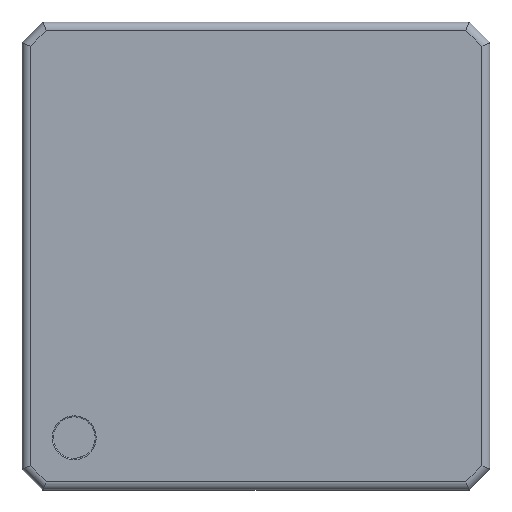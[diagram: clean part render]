
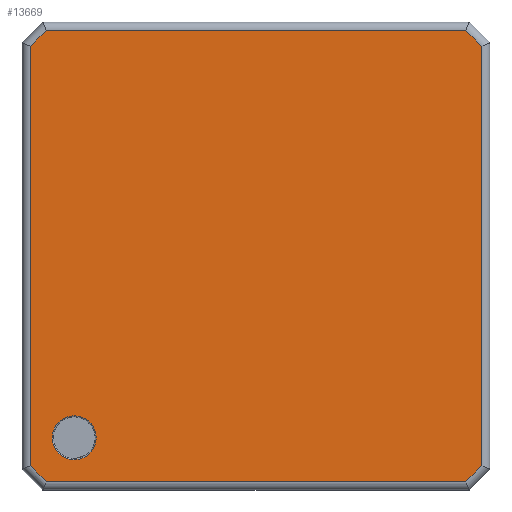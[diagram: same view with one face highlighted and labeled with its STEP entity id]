
A CAD part, top view. The second image highlights one B-rep face of the part: STEP entity #13669.
In plain terms, the highlighted planar face has unit normal (0, 0, 1).
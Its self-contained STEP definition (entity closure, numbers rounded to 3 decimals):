
#13367 = CARTESIAN_POINT ( 'NONE',  ( -11.049, -12.383, 2.54 ) ) ;
#13368 = VERTEX_POINT ( 'NONE', #13367 ) ;
#13376 = CARTESIAN_POINT ( 'NONE',  ( -11.049, -9.716, 2.54 ) ) ;
#13377 = VERTEX_POINT ( 'NONE', #13376 ) ;
#13378 = CARTESIAN_POINT ( 'NONE',  ( -11.049, -11.049, 2.54 ) ) ;
#13379 = DIRECTION ( 'NONE',  ( 0., 0., -1. ) ) ;
#13380 = DIRECTION ( 'NONE',  ( 0., 1., 0. ) ) ;
#13381 = AXIS2_PLACEMENT_3D ( 'NONE', #13378, #13379, #13380 ) ;
#13382 = CIRCLE ( 'NONE', #13381, 1.334) ;
#13383 = EDGE_CURVE ( 'NONE', #13377, #13368, #13382, .T. ) ;
#13588 = ORIENTED_EDGE ( 'NONE', *, *, #13383, .T. ) ;
#13589 = CARTESIAN_POINT ( 'NONE',  ( -11.049, -11.049, 2.54 ) ) ;
#13590 = DIRECTION ( 'NONE',  ( 0., 0., -1. ) ) ;
#13591 = DIRECTION ( 'NONE',  ( 0., 1., 0. ) ) ;
#13592 = AXIS2_PLACEMENT_3D ( 'NONE', #13589, #13590, #13591 ) ;
#13593 = CIRCLE ( 'NONE', #13592, 1.334) ;
#13594 = EDGE_CURVE ( 'NONE', #13368, #13377, #13593, .T. ) ;
#13595 = ORIENTED_EDGE ( 'NONE', *, *, #13594, .T. ) ;
#13596 = EDGE_LOOP ( 'NONE', ( #13588, #13595 ) ) ;
#13597 = FACE_BOUND ( 'NONE', #13596, .T. ) ;
#13598 = CARTESIAN_POINT ( 'NONE',  ( 13.716, -12.744, 2.54 ) ) ;
#13599 = VERTEX_POINT ( 'NONE', #13598 ) ;
#13600 = CARTESIAN_POINT ( 'NONE',  ( 13.716, 12.744, 2.54 ) ) ;
#13601 = VERTEX_POINT ( 'NONE', #13600 ) ;
#13602 = CARTESIAN_POINT ( 'NONE',  ( 13.716, 0., 2.54 ) ) ;
#13603 = DIRECTION ( 'NONE',  ( 0., 1., 0. ) ) ;
#13604 = VECTOR ( 'NONE', #13603, 1000. ) ;
#13605 = LINE ( 'NONE', #13602, #13604 ) ;
#13606 = EDGE_CURVE ( 'NONE', #13599, #13601, #13605, .T. ) ;
#13607 = ORIENTED_EDGE ( 'NONE', *, *, #13606, .T. ) ;
#13608 = CARTESIAN_POINT ( 'NONE',  ( 12.744, 13.716, 2.54 ) ) ;
#13609 = VERTEX_POINT ( 'NONE', #13608 ) ;
#13610 = CARTESIAN_POINT ( 'NONE',  ( 12.595, 13.865, 2.54 ) ) ;
#13611 = DIRECTION ( 'NONE',  ( -0.707, 0.707, 0. ) ) ;
#13612 = VECTOR ( 'NONE', #13611, 1000. ) ;
#13613 = LINE ( 'NONE', #13610, #13612 ) ;
#13614 = EDGE_CURVE ( 'NONE', #13601, #13609, #13613, .T. ) ;
#13615 = ORIENTED_EDGE ( 'NONE', *, *, #13614, .T. ) ;
#13616 = CARTESIAN_POINT ( 'NONE',  ( -12.744, 13.716, 2.54 ) ) ;
#13617 = VERTEX_POINT ( 'NONE', #13616 ) ;
#13618 = CARTESIAN_POINT ( 'NONE',  ( 0., 13.716, 2.54 ) ) ;
#13619 = DIRECTION ( 'NONE',  ( -1., 0., 0. ) ) ;
#13620 = VECTOR ( 'NONE', #13619, 1000. ) ;
#13621 = LINE ( 'NONE', #13618, #13620 ) ;
#13622 = EDGE_CURVE ( 'NONE', #13609, #13617, #13621, .T. ) ;
#13623 = ORIENTED_EDGE ( 'NONE', *, *, #13622, .T. ) ;
#13624 = CARTESIAN_POINT ( 'NONE',  ( -13.716, 12.744, 2.54 ) ) ;
#13625 = VERTEX_POINT ( 'NONE', #13624 ) ;
#13626 = CARTESIAN_POINT ( 'NONE',  ( -13.865, 12.595, 2.54 ) ) ;
#13627 = DIRECTION ( 'NONE',  ( -0.707, -0.707, 0. ) ) ;
#13628 = VECTOR ( 'NONE', #13627, 1000. ) ;
#13629 = LINE ( 'NONE', #13626, #13628 ) ;
#13630 = EDGE_CURVE ( 'NONE', #13617, #13625, #13629, .T. ) ;
#13631 = ORIENTED_EDGE ( 'NONE', *, *, #13630, .T. ) ;
#13632 = CARTESIAN_POINT ( 'NONE',  ( -13.716, -12.744, 2.54 ) ) ;
#13633 = VERTEX_POINT ( 'NONE', #13632 ) ;
#13634 = CARTESIAN_POINT ( 'NONE',  ( -13.716, 0., 2.54 ) ) ;
#13635 = DIRECTION ( 'NONE',  ( 0., -1., 0. ) ) ;
#13636 = VECTOR ( 'NONE', #13635, 1000. ) ;
#13637 = LINE ( 'NONE', #13634, #13636 ) ;
#13638 = EDGE_CURVE ( 'NONE', #13625, #13633, #13637, .T. ) ;
#13639 = ORIENTED_EDGE ( 'NONE', *, *, #13638, .T. ) ;
#13640 = CARTESIAN_POINT ( 'NONE',  ( -12.744, -13.716, 2.54 ) ) ;
#13641 = VERTEX_POINT ( 'NONE', #13640 ) ;
#13642 = CARTESIAN_POINT ( 'NONE',  ( -12.595, -13.865, 2.54 ) ) ;
#13643 = DIRECTION ( 'NONE',  ( 0.707, -0.707, 0. ) ) ;
#13644 = VECTOR ( 'NONE', #13643, 1000. ) ;
#13645 = LINE ( 'NONE', #13642, #13644 ) ;
#13646 = EDGE_CURVE ( 'NONE', #13633, #13641, #13645, .T. ) ;
#13647 = ORIENTED_EDGE ( 'NONE', *, *, #13646, .T. ) ;
#13648 = CARTESIAN_POINT ( 'NONE',  ( 12.744, -13.716, 2.54 ) ) ;
#13649 = VERTEX_POINT ( 'NONE', #13648 ) ;
#13650 = CARTESIAN_POINT ( 'NONE',  ( 0., -13.716, 2.54 ) ) ;
#13651 = DIRECTION ( 'NONE',  ( 1., 0., 0. ) ) ;
#13652 = VECTOR ( 'NONE', #13651, 1000. ) ;
#13653 = LINE ( 'NONE', #13650, #13652 ) ;
#13654 = EDGE_CURVE ( 'NONE', #13641, #13649, #13653, .T. ) ;
#13655 = ORIENTED_EDGE ( 'NONE', *, *, #13654, .T. ) ;
#13656 = CARTESIAN_POINT ( 'NONE',  ( 13.865, -12.595, 2.54 ) ) ;
#13657 = DIRECTION ( 'NONE',  ( 0.707, 0.707, 0. ) ) ;
#13658 = VECTOR ( 'NONE', #13657, 1000. ) ;
#13659 = LINE ( 'NONE', #13656, #13658 ) ;
#13660 = EDGE_CURVE ( 'NONE', #13649, #13599, #13659, .T. ) ;
#13661 = ORIENTED_EDGE ( 'NONE', *, *, #13660, .T. ) ;
#13662 = EDGE_LOOP ( 'NONE', ( #13607, #13615, #13623, #13631, #13639, #13647, #13655, #13661 ) ) ;
#13663 = FACE_OUTER_BOUND ( 'NONE', #13662, .T. ) ;
#13664 = CARTESIAN_POINT ( 'NONE',  ( 0., 0., 2.54 ) ) ;
#13665 = DIRECTION ( 'NONE',  ( 0., 0., -1. ) ) ;
#13666 = DIRECTION ( 'NONE',  ( 0., 1., 0. ) ) ;
#13667 = AXIS2_PLACEMENT_3D ( 'NONE', #13664, #13665, #13666 ) ;
#13668 = PLANE ( 'NONE', #13667 ) ;
#13669 = ADVANCED_FACE ( 'NONE', ( #13597, #13663 ), #13668, .F. ) ;
